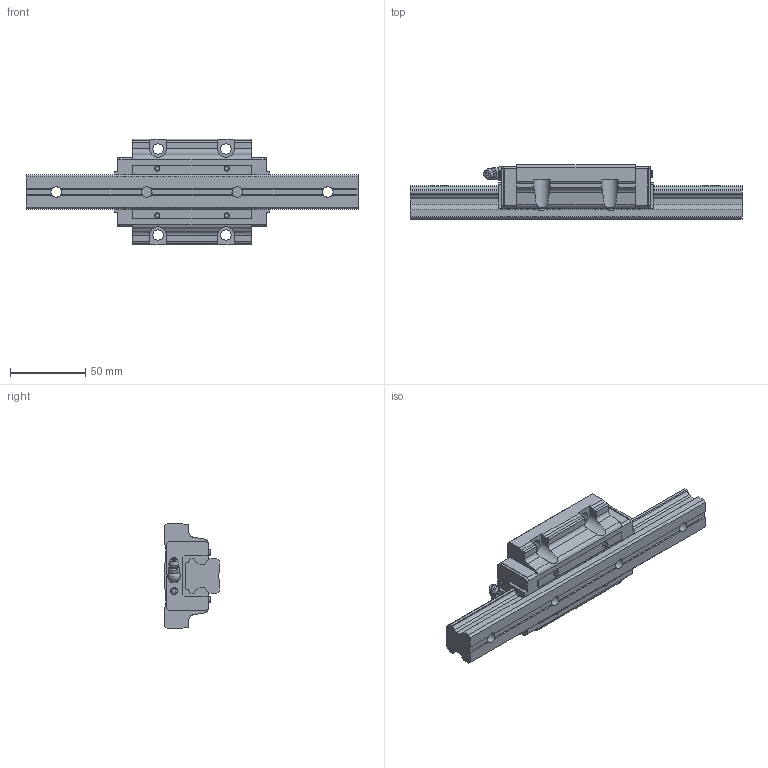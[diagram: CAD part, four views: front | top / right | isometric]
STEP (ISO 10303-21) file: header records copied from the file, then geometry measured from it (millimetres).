
FILE_DESCRIPTION(/* description */ ('STEP AP203'),/* implementation_level */ '2;1');
FILE_NAME(/* name */ 'HSR25M1LB1SS-220L_G20_0_B-M6F_58-5_0_0_0',/* time_stamp */ '2024-05-23T06:17:40+02:00',/* author */ ('License CC BY-ND 4.0'),/* organization */ ('CADENAS'),/* preprocessor_version */ 'ST-DEVELOPER v19.3',/* originating_system */ 'PARTsolutions',/* authorisation */ ' ');
FILE_SCHEMA (('CONFIG_CONTROL_DESIGN'));
Length unit declared in the file: millimetre
Products named in the file (4): HSR25M1LB1SS-220L_G20_0_B-M6F_58-5_0_0_0; HSR25M1LB122020 Rail; HSR25M1LBSSB-M6F Slider; hsr_ftht_B-M6F_grease_nipple_joint
Assembly tree (3 placements, depth 2):
  HSR25M1LB1SS-220L_G20_0_B-M6F_58-5_0_0_0
    HSR25M1LB122020 Rail
    HSR25M1LBSSB-M6F Slider
    hsr_ftht_B-M6F_grease_nipple_joint
Bounding box: 220 x 36 x 70 mm (x, y, z)
Volume: 221708.4 mm3; surface area: 49836.8 mm2
Topology: 3 solids, 3 shells, 304 faces, 826 edges, 543 vertices
Faces by surface type: plane 226, cylinder 52, cone 13, torus 10, sphere 3
Full cylindrical faces by diameter (mm): 3.518 x4, 4.5 x4, 4.917 x2, 6 x1, 7 x8, 8 x1, 11 x4
Entity records: 9425 total; most frequent: CARTESIAN_POINT 1783, ORIENTED_EDGE 1540, DIRECTION 1516, EDGE_CURVE 770, LINE 568, VECTOR 568, VERTEX_POINT 533, AXIS2_PLACEMENT_3D 474
